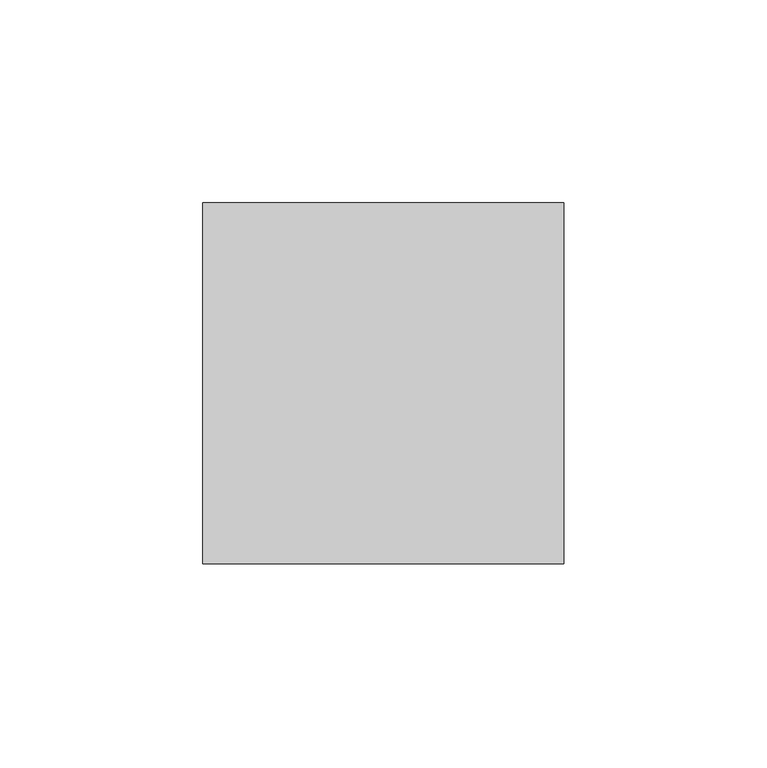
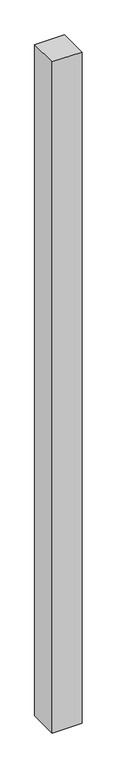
"""IFC4 building model written with IfcOpenShell, lengths in millimetres: column geometry, Trus Joist - TimberStrand LSL - Post Column : TimberStrand® 1.3E – 3 1/2 x 3 1/2”."""

from ifc_helpers import new_model, si_unit, frame, origin, place, context, project, spatial, polyline, outline, extrude, source, transform, mapped, element, save


def column_fadc89e4(model_context):
    return source(origin(), model_context, "Body", "SweptSolid", [
        extrude(outline(polyline([(44.45, 44.45), (44.45, -44.45), (-44.45, -44.45), (-44.45, 44.45), (44.45, 44.45)])), frame((0.0, 0.0, 5822.95), z_axis=(0.0, 0.0, 1.0), x_axis=(1.0, 0.0, 0.0)), (0.0, 0.0, 1.0), 2108.2),
    ])


if __name__ == "__main__":
    model = new_model("IFC4")
    model_context = context("Model", 3, world=origin())
    ifc_project = project(units=[si_unit("LENGTHUNIT", "METRE", prefix="MILLI")], contexts=[model_context])
    site = spatial("IfcSite", under=ifc_project)
    building = spatial("IfcBuilding", under=site)
    placement = place(None, origin())
    column_shape = column_fadc89e4(model_context)
    element("IfcColumn", 1, ObjectType="Trus Joist - TimberStrand LSL - Post Column : TimberStrand® 1.3E – 3 1/2 x 3 1/2”", at=placement, inside=building, context=model_context, shape_type="MappedRepresentation", body=[
        mapped(column_shape, transform((0.0, 0.0, 0.0), x_axis=(1.0, 0.0, 0.0), y_axis=(0.0, 1.0, 0.0), z_axis=(0.0, 0.0, 1.0))),
    ])
    save(model, "model.ifc")
